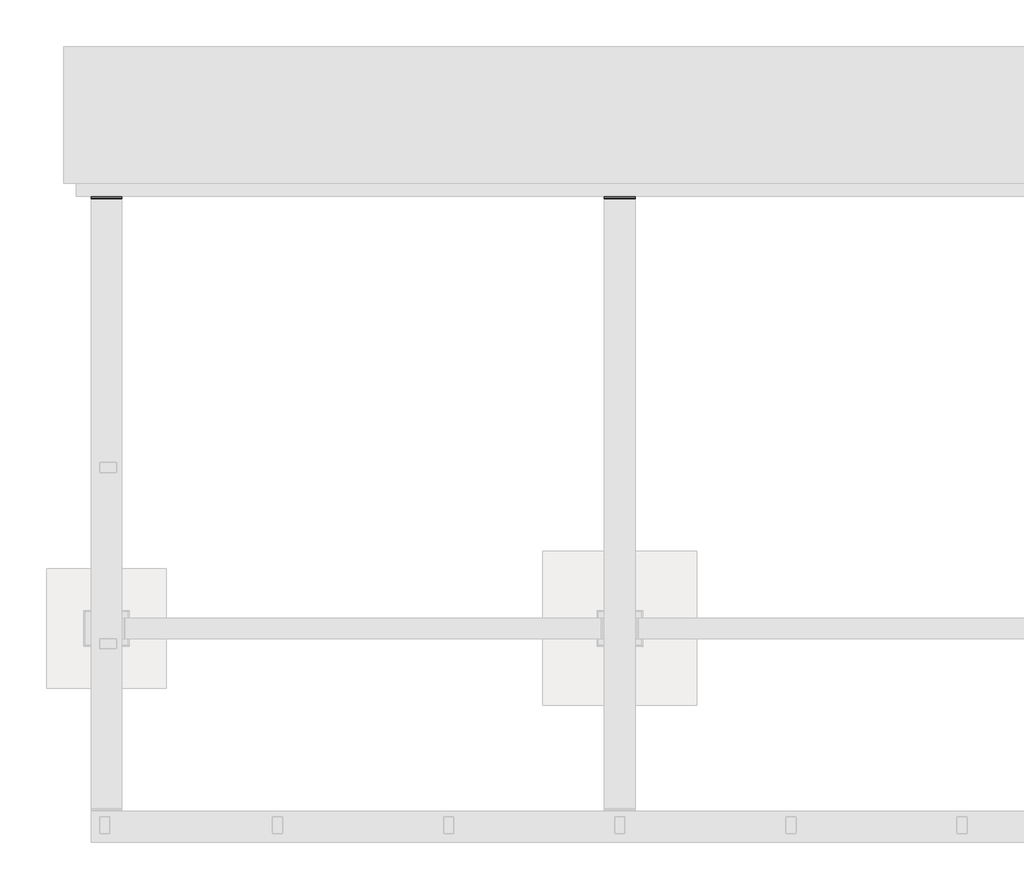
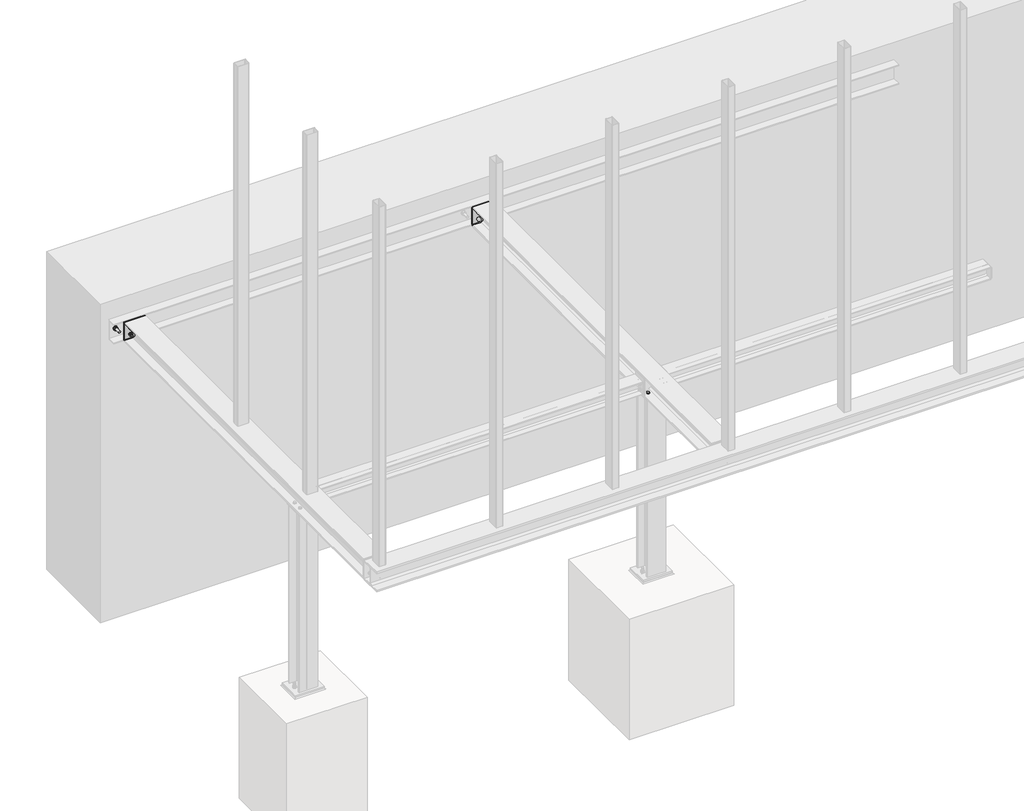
# One storey, part 6 of 31: 9 proxies.
"""IFC4 building model written with IfcOpenShell, lengths in millimetres."""

import ifcopenshell
import ifcopenshell.guid

model = None  # the IFC model being written
_history = None  # IfcOwnerHistory: only IFC2X3 demands one
_inside = {}  # id of a spatial element -> (the spatial element, [elements in it])
_under = {}  # id of a project, library or spatial element -> (it, [spatial elements below it])
_declared = {}  # id of a project -> (the project, [libraries it declares])
_typed = {}  # id of a type object -> (the type object, [elements of that type])
_made_of = {}  # id of a material, layer set ... -> (it, [elements and type objects made of it])


def new_model(schema):
    """Start an empty IFC model of exactly this schema.

    Asked for "IFC4X3", IfcOpenShell would pick the latest addendum, in which some entities
    have other attributes; the version numbers below select the first issue.
    IFC2X3 requires an IfcOwnerHistory on every rooted entity: one is made here for all.
    """
    global model, _history
    if schema == "IFC4X3":
        model = ifcopenshell.file(schema_version=(4, 3, 0, 0))
    else:
        model = ifcopenshell.file(schema=schema)
    _inside.clear()
    _under.clear()
    _declared.clear()
    _typed.clear()
    _made_of.clear()
    _history = None
    if model.schema == "IFC2X3":
        org = make("IfcOrganization", Name="unknown")
        user = make(
            "IfcPersonAndOrganization",
            ThePerson=make("IfcPerson", FamilyName="unknown"),
            TheOrganization=org,
        )
        app = make(
            "IfcApplication",
            ApplicationDeveloper=org,
            Version="unknown",
            ApplicationFullName="unknown",
            ApplicationIdentifier="unknown",
        )
        _history = make(
            "IfcOwnerHistory",
            OwningUser=user,
            OwningApplication=app,
            ChangeAction="ADDED",
            CreationDate=0,
        )
    return model


def make(cls, **values):
    """One entity of the class cls with the attributes given. An attribute that is None is left unset."""
    return model.create_entity(
        cls, **{name: value for name, value in values.items() if value is not None}
    )


def rooted(cls, **values):
    """An entity with a GlobalId (a new one), such as an element, a storey or a relation."""
    return make(cls, GlobalId=ifcopenshell.guid.new(), OwnerHistory=_history, **values)


def si_unit(unit_type, name, prefix=None):
    """IfcSIUnit, for example si_unit("LENGTHUNIT", "METRE", prefix="MILLI")."""
    return make("IfcSIUnit", UnitType=unit_type, Prefix=prefix, Name=name)


def assignment(units):
    """IfcUnitAssignment: the units of a project."""
    return None if units is None else make("IfcUnitAssignment", Units=units)


def point(xyz):
    """IfcCartesianPoint."""
    return None if xyz is None else make("IfcCartesianPoint", Coordinates=xyz)


def direction(xyz):
    """IfcDirection."""
    return None if xyz is None else make("IfcDirection", DirectionRatios=xyz)


def frame(location, z_axis=None, x_axis=None):
    """IfcAxis2Placement3D, a coordinate frame: its origin and axes. An axis left out is left unset."""
    return make(
        "IfcAxis2Placement3D",
        Location=point(location),
        Axis=direction(z_axis),
        RefDirection=direction(x_axis),
    )


def frame_2d(location, x_axis=None):
    """IfcAxis2Placement2D, a coordinate frame in the plane: its origin and x axis."""
    return make(
        "IfcAxis2Placement2D", Location=point(location), RefDirection=direction(x_axis)
    )


def origin():
    """The frame at (0, 0, 0) with its axes left unset."""
    return frame((0.0, 0.0, 0.0))


def place(relative_to, where):
    """IfcLocalPlacement: puts the frame where relative to a parent placement (None: the world)."""
    return make(
        "IfcLocalPlacement", PlacementRelTo=relative_to, RelativePlacement=where
    )


def context(
    kind, dimensions, precision=None, world=None, true_north=None, identifier=None
):
    """IfcGeometricRepresentationContext, for example the 3D "Model" context."""
    return make(
        "IfcGeometricRepresentationContext",
        ContextIdentifier=identifier,
        ContextType=kind,
        CoordinateSpaceDimension=dimensions,
        Precision=precision,
        WorldCoordinateSystem=world,
        TrueNorth=true_north,
    )


def project(units=None, contexts=None):
    """IfcProject with its units and contexts."""
    return rooted(
        "IfcProject",
        Name="project",
        RepresentationContexts=contexts,
        UnitsInContext=assignment(units),
    )


def spatial(cls, under=None, at=None, **own):
    """A site, building, storey or space (cls), placed at a placement, below another one or the project."""
    s = rooted(cls, ObjectPlacement=at, **own)
    if under is not None:
        _under.setdefault(under.id(), (under, []))[1].append(s)
    return s


def polyline(points):
    """IfcPolyline through the points."""
    return make("IfcPolyline", Points=[point(p) for p in points])


def circle_curve(where, radius):
    """IfcCircle in the frame where."""
    return make("IfcCircle", Position=where, Radius=radius)


def trimmed(basis, trim1, trim2, sense, master):
    """IfcTrimmedCurve: the piece of a basis curve between two trims."""
    return make(
        "IfcTrimmedCurve",
        BasisCurve=basis,
        Trim1=trim1,
        Trim2=trim2,
        SenseAgreement=sense,
        MasterRepresentation=master,
    )


def segment(curve, same_sense, transition):
    """IfcCompositeCurveSegment."""
    return make(
        "IfcCompositeCurveSegment",
        Transition=transition,
        SameSense=same_sense,
        ParentCurve=curve,
    )


def composite_curve(segments, self_intersect=None):
    """IfcCompositeCurve: segments joined end to end."""
    return make("IfcCompositeCurve", Segments=segments, SelfIntersect=self_intersect)


def outline(outer, holes=None, kind="AREA"):
    """IfcArbitraryClosedProfileDef: a profile drawn as a closed curve; with holes, ...WithVoids."""
    if holes is None:
        return make("IfcArbitraryClosedProfileDef", ProfileType=kind, OuterCurve=outer)
    return make(
        "IfcArbitraryProfileDefWithVoids",
        ProfileType=kind,
        OuterCurve=outer,
        InnerCurves=holes,
    )


def extrude(swept, where, along, depth):
    """IfcExtrudedAreaSolid: the profile swept, set in the frame where, extruded along a direction by depth."""
    return make(
        "IfcExtrudedAreaSolid",
        SweptArea=swept,
        Position=where,
        ExtrudedDirection=direction(along),
        Depth=depth,
    )


def shape(context_of_items, identifier, shape_type, items):
    """IfcShapeRepresentation: the items that make up one representation, for example the "Body"."""
    return make(
        "IfcShapeRepresentation",
        ContextOfItems=context_of_items,
        RepresentationIdentifier=identifier,
        RepresentationType=shape_type,
        Items=items,
    )


def made_of(thing, what):
    """Note that an element or type object is made of a material, layer set ...; save() writes the relation."""
    if what is not None:
        _made_of.setdefault(what.id(), (what, []))[1].append(thing)
    return thing


def element(
    cls,
    number,
    at=None,
    inside=None,
    cuts=None,
    type_object=None,
    material=None,
    context=None,
    identifier="Body",
    shape_type=None,
    held_by="IfcProductDefinitionShape",
    body=None,
    shapes=None,
    **own,
):
    """One element of the class cls, such as IfcWall. Its Tag is "e" and its number.

    at: its placement. inside: the storey or other place that contains it. cuts: it is an
    opening in that element (IfcRelVoidsElement). A single representation is given by context,
    identifier, shape_type and body (its items); several are given by shapes. held_by: the class
    of the entity that holds the representations. save() writes the other relations.
    """
    e = rooted(cls, Tag="e%d" % number, ObjectPlacement=at, **own)
    if body is not None:
        shapes = [shape(context, identifier, shape_type, body)]
    if shapes is not None:
        e.Representation = make(held_by, Representations=shapes)
    if inside is not None:
        _inside.setdefault(inside.id(), (inside, []))[1].append(e)
    if cuts is not None:
        rooted(
            "IfcRelVoidsElement", RelatingBuildingElement=cuts, RelatedOpeningElement=e
        )
    if type_object is not None:
        _typed.setdefault(type_object.id(), (type_object, []))[1].append(e)
    return made_of(e, material)


def aggregate(whole, parts):
    """IfcRelAggregates: a whole, such as a stair, and the parts it consists of."""
    return rooted("IfcRelAggregates", RelatingObject=whole, RelatedObjects=parts)


def save(model, path):
    """Write the relations noted so far, then the file.

    IfcRelAggregates (storeys below a building ...), IfcRelContainedInSpatialStructure (elements
    in a storey), IfcRelDefinesByType, IfcRelAssociatesMaterial and IfcRelDeclares: one each for
    every whole, place, type object, material and project.
    """
    for whole, parts in _under.values():
        aggregate(whole, parts)
    for where, things in _inside.values():
        rooted(
            "IfcRelContainedInSpatialStructure",
            RelatedElements=things,
            RelatingStructure=where,
        )
    for kind, things in _typed.values():
        rooted("IfcRelDefinesByType", RelatedObjects=things, RelatingType=kind)
    for what, things in _made_of.values():
        rooted("IfcRelAssociatesMaterial", RelatedObjects=things, RelatingMaterial=what)
    for by, libraries in _declared.values():
        rooted("IfcRelDeclares", RelatingContext=by, RelatedDefinitions=libraries)
    model.write(path)


model = new_model("IFC4")

# Units and contexts
model_context = context("Model", 3, world=origin())
ifc_project = project(units=[si_unit("LENGTHUNIT", "METRE", prefix="MILLI")], contexts=[model_context])

# Site, building, storey
site = spatial("IfcSite", under=ifc_project)
building = spatial("IfcBuilding", under=site)
storey = spatial("IfcBuildingStorey", under=building, Name="Základy", Elevation=-1200.0)

# Proxies
placement = place(None, origin())
element("IfcBuildingElementProxy", 1, Name="PLECH", ObjectType="PLECH", at=placement, inside=storey, context=model_context, shape_type="SweptSolid", body=[
    extrude(outline(polyline([(2960.0, 3775.0), (3140.0, 3775.0), (3140.0, 3767.0), (2960.0, 3767.0), (2960.0, 3775.0)])), frame((0.0, 0.0, -316.0), z_axis=(0.0, 0.0, 1.0), x_axis=(1.0, 0.0, 0.0)), (0.0, 0.0, 1.0), 132.0),
])
element("IfcBuildingElementProxy", 2, Name="PLECH", ObjectType="PLECH", at=placement, inside=storey, context=model_context, shape_type="SweptSolid", body=[
    extrude(outline(polyline([(-40.0, 3775.0), (140.0, 3775.0), (140.0, 3767.0), (-40.0, 3767.0), (-40.0, 3775.0)])), frame((0.0, 0.0, -316.0), z_axis=(0.0, 0.0, 1.0), x_axis=(1.0, 0.0, 0.0)), (0.0, 0.0, 1.0), 132.0),
])
element("IfcBuildingElementProxy", 3, Name="PLECH", ObjectType="PLECH", at=placement, inside=storey, context=model_context, shape_type="SweptSolid", body=[
    extrude(outline(composite_curve([segment(polyline([(3785.0, -170.5), (3834.5, -170.5)]), True, "CONTINUOUS"), segment(trimmed(circle_curve(frame_2d((3854.5, -170.5)), 20.0), [point((3834.5, -170.5))], [point((3854.5, -190.5))], True, "CARTESIAN"), True, "CONTINUOUS"), segment(polyline([(3854.5, -190.5), (3854.5, -309.5)]), True, "CONTINUOUS"), segment(trimmed(circle_curve(frame_2d((3854.5, -329.5)), 20.0), [point((3854.5, -309.5))], [point((3834.5, -329.5))], True, "CARTESIAN"), True, "CONTINUOUS"), segment(polyline([(3834.5, -329.5), (3785.0, -329.5), (3785.0, -170.5)]), True, "CONTINUOUS")], self_intersect=False)), frame((3046.0, 0.0, 0.0), z_axis=(1.0, 0.0, 0.0), x_axis=(0.0, 1.0, 0.0)), (0.0, 0.0, 1.0), 8.0),
])
element("IfcBuildingElementProxy", 4, Name="PLECH", ObjectType="PLECH", at=placement, inside=storey, context=model_context, shape_type="SweptSolid", body=[
    extrude(outline(polyline([(2960.0, 3785.0), (3140.0, 3785.0), (3140.0, 3775.0), (2960.0, 3775.0), (2960.0, 3785.0)])), frame((0.0, 0.0, -332.0), z_axis=(0.0, 0.0, 1.0), x_axis=(1.0, 0.0, 0.0)), (0.0, 0.0, 1.0), 164.0),
])
element("IfcBuildingElementProxy", 5, Name="PLECH", ObjectType="PLECH", at=placement, inside=storey, context=model_context, shape_type="SweptSolid", body=[
    extrude(outline(composite_curve([segment(polyline([(3785.0, -170.5), (3834.5, -170.5)]), True, "CONTINUOUS"), segment(trimmed(circle_curve(frame_2d((3854.5, -170.5)), 20.0), [point((3834.5, -170.5))], [point((3854.5, -190.5))], True, "CARTESIAN"), True, "CONTINUOUS"), segment(polyline([(3854.5, -190.5), (3854.5, -309.5)]), True, "CONTINUOUS"), segment(trimmed(circle_curve(frame_2d((3854.5, -329.5)), 20.0), [point((3854.5, -309.5))], [point((3834.5, -329.5))], True, "CARTESIAN"), True, "CONTINUOUS"), segment(polyline([(3834.5, -329.5), (3785.0, -329.5), (3785.0, -170.5)]), True, "CONTINUOUS")], self_intersect=False)), frame((46.0, 0.0, 0.0), z_axis=(1.0, 0.0, 0.0), x_axis=(0.0, 1.0, 0.0)), (0.0, 0.0, 1.0), 8.0),
])
element("IfcBuildingElementProxy", 6, Name="PLECH", ObjectType="PLECH", at=placement, inside=storey, context=model_context, shape_type="SweptSolid", body=[
    extrude(outline(polyline([(-40.0, 3785.0), (140.0, 3785.0), (140.0, 3775.0), (-40.0, 3775.0), (-40.0, 3785.0)])), frame((0.0, 0.0, -332.0), z_axis=(0.0, 0.0, 1.0), x_axis=(1.0, 0.0, 0.0)), (0.0, 0.0, 1.0), 164.0),
])
element("IfcBuildingElementProxy", 7, Name="Bolt assembly", ObjectType="Bolt assembly", at=placement, inside=storey, context=model_context, shape_type="SweptSolid", body=[
    extrude(outline(composite_curve([segment(trimmed(circle_curve(frame_2d((3000.0, 1220.0)), 6.5), [point((3006.5, 1220.0))], [point((2993.5, 1220.0))], False, "CARTESIAN"), True, "CONTINUOUS"), segment(trimmed(circle_curve(frame_2d((3000.0, 1220.0)), 6.5), [point((2993.5, 1220.0))], [point((3006.5, 1220.0))], False, "CARTESIAN"), True, "CONTINUOUS")], self_intersect=False)), frame((0.0, 0.0, -350.0), z_axis=(0.0, 0.0, 1.0), x_axis=(1.0, 0.0, 0.0)), (0.0, 0.0, 1.0), 10.1),
    extrude(outline(polyline([(3010.3923048, 1220.0), (3005.1961524, 1211.0), (2994.8038476, 1211.0), (2989.6076952, 1220.0), (2994.8038476, 1229.0), (3005.1961524, 1229.0), (3010.3923048, 1220.0)])), frame((0.0, 0.0, -323.5), z_axis=(0.0, 0.0, 1.0), x_axis=(1.0, 0.0, 0.0)), (0.0, 0.0, 1.0), 7.5),
    extrude(outline(composite_curve([segment(trimmed(circle_curve(frame_2d((3000.0, 1220.0)), 6.0), [point((3006.0, 1220.0))], [point((2994.0, 1220.0))], False, "CARTESIAN"), True, "CONTINUOUS"), segment(trimmed(circle_curve(frame_2d((3000.0, 1220.0)), 6.0), [point((2994.0, 1220.0))], [point((3006.0, 1220.0))], False, "CARTESIAN"), True, "CONTINUOUS")], self_intersect=False)), frame((0.0, 0.0, -368.5), z_axis=(0.0, 0.0, 1.0), x_axis=(1.0, 0.0, 0.0)), (0.0, 0.0, 1.0), 45.0),
    extrude(outline(composite_curve([segment(trimmed(circle_curve(frame_2d((3000.0, 1220.0)), 12.0), [point((3012.0, 1220.0))], [point((2988.0, 1220.0))], False, "CARTESIAN"), True, "CONTINUOUS"), segment(trimmed(circle_curve(frame_2d((3000.0, 1220.0)), 12.0), [point((2988.0, 1220.0))], [point((3012.0, 1220.0))], False, "CARTESIAN"), True, "CONTINUOUS")], self_intersect=False)), frame((0.0, 0.0, -326.0), z_axis=(0.0, 0.0, 1.0), x_axis=(1.0, 0.0, 0.0)), (0.0, 0.0, 1.0), 2.5),
    extrude(outline(composite_curve([segment(trimmed(circle_curve(frame_2d((3000.0, 1220.0)), 12.0), [point((3012.0, 1220.0))], [point((2988.0, 1220.0))], False, "CARTESIAN"), True, "CONTINUOUS"), segment(trimmed(circle_curve(frame_2d((3000.0, 1220.0)), 12.0), [point((2988.0, 1220.0))], [point((3012.0, 1220.0))], False, "CARTESIAN"), True, "CONTINUOUS")], self_intersect=False)), frame((0.0, 0.0, -352.5), z_axis=(0.0, 0.0, 1.0), x_axis=(1.0, 0.0, 0.0)), (0.0, 0.0, 1.0), 2.5),
    extrude(outline(polyline([(3010.9696551, 1220.0), (3005.4848276, 1210.5), (2994.5151724, 1210.5), (2989.0303449, 1220.0), (2994.5151724, 1229.5), (3005.4848276, 1229.5), (3010.9696551, 1220.0)])), frame((0.0, 0.0, -362.5), z_axis=(0.0, 0.0, 1.0), x_axis=(1.0, 0.0, 0.0)), (0.0, 0.0, 1.0), 10.0),
    extrude(outline(composite_curve([segment(trimmed(circle_curve(frame_2d((3000.0, 1220.0)), 6.5), [point((3006.5, 1220.0))], [point((2993.5, 1220.0))], False, "CARTESIAN"), True, "CONTINUOUS"), segment(trimmed(circle_curve(frame_2d((3000.0, 1220.0)), 6.5), [point((2993.5, 1220.0))], [point((3006.5, 1220.0))], False, "CARTESIAN"), True, "CONTINUOUS")], self_intersect=False)), frame((0.0, 0.0, -340.1), z_axis=(0.0, 0.0, 1.0), x_axis=(1.0, 0.0, 0.0)), (0.0, 0.0, 1.0), 14.0),
    extrude(outline(composite_curve([segment(trimmed(circle_curve(frame_2d((3100.0, 1220.0)), 6.5), [point((3106.5, 1220.0))], [point((3093.5, 1220.0))], False, "CARTESIAN"), True, "CONTINUOUS"), segment(trimmed(circle_curve(frame_2d((3100.0, 1220.0)), 6.5), [point((3093.5, 1220.0))], [point((3106.5, 1220.0))], False, "CARTESIAN"), True, "CONTINUOUS")], self_intersect=False)), frame((0.0, 0.0, -350.0), z_axis=(0.0, 0.0, 1.0), x_axis=(1.0, 0.0, 0.0)), (0.0, 0.0, 1.0), 10.1),
    extrude(outline(polyline([(3110.3923048, 1220.0), (3105.1961524, 1211.0), (3094.8038476, 1211.0), (3089.6076952, 1220.0), (3094.8038476, 1229.0), (3105.1961524, 1229.0), (3110.3923048, 1220.0)])), frame((0.0, 0.0, -323.5), z_axis=(0.0, 0.0, 1.0), x_axis=(1.0, 0.0, 0.0)), (0.0, 0.0, 1.0), 7.5),
    extrude(outline(composite_curve([segment(trimmed(circle_curve(frame_2d((3100.0, 1220.0)), 6.0), [point((3106.0, 1220.0))], [point((3094.0, 1220.0))], False, "CARTESIAN"), True, "CONTINUOUS"), segment(trimmed(circle_curve(frame_2d((3100.0, 1220.0)), 6.0), [point((3094.0, 1220.0))], [point((3106.0, 1220.0))], False, "CARTESIAN"), True, "CONTINUOUS")], self_intersect=False)), frame((0.0, 0.0, -368.5), z_axis=(0.0, 0.0, 1.0), x_axis=(1.0, 0.0, 0.0)), (0.0, 0.0, 1.0), 45.0),
    extrude(outline(composite_curve([segment(trimmed(circle_curve(frame_2d((3100.0, 1220.0)), 12.0), [point((3112.0, 1220.0))], [point((3088.0, 1220.0))], False, "CARTESIAN"), True, "CONTINUOUS"), segment(trimmed(circle_curve(frame_2d((3100.0, 1220.0)), 12.0), [point((3088.0, 1220.0))], [point((3112.0, 1220.0))], False, "CARTESIAN"), True, "CONTINUOUS")], self_intersect=False)), frame((0.0, 0.0, -326.0), z_axis=(0.0, 0.0, 1.0), x_axis=(1.0, 0.0, 0.0)), (0.0, 0.0, 1.0), 2.5),
    extrude(outline(composite_curve([segment(trimmed(circle_curve(frame_2d((3100.0, 1220.0)), 12.0), [point((3112.0, 1220.0))], [point((3088.0, 1220.0))], False, "CARTESIAN"), True, "CONTINUOUS"), segment(trimmed(circle_curve(frame_2d((3100.0, 1220.0)), 12.0), [point((3088.0, 1220.0))], [point((3112.0, 1220.0))], False, "CARTESIAN"), True, "CONTINUOUS")], self_intersect=False)), frame((0.0, 0.0, -352.5), z_axis=(0.0, 0.0, 1.0), x_axis=(1.0, 0.0, 0.0)), (0.0, 0.0, 1.0), 2.5),
    extrude(outline(polyline([(3110.9696551, 1220.0), (3105.4848276, 1210.5), (3094.5151724, 1210.5), (3089.0303449, 1220.0), (3094.5151724, 1229.5), (3105.4848276, 1229.5), (3110.9696551, 1220.0)])), frame((0.0, 0.0, -362.5), z_axis=(0.0, 0.0, 1.0), x_axis=(1.0, 0.0, 0.0)), (0.0, 0.0, 1.0), 10.0),
    extrude(outline(composite_curve([segment(trimmed(circle_curve(frame_2d((3100.0, 1220.0)), 6.5), [point((3106.5, 1220.0))], [point((3093.5, 1220.0))], False, "CARTESIAN"), True, "CONTINUOUS"), segment(trimmed(circle_curve(frame_2d((3100.0, 1220.0)), 6.5), [point((3093.5, 1220.0))], [point((3106.5, 1220.0))], False, "CARTESIAN"), True, "CONTINUOUS")], self_intersect=False)), frame((0.0, 0.0, -340.1), z_axis=(0.0, 0.0, 1.0), x_axis=(1.0, 0.0, 0.0)), (0.0, 0.0, 1.0), 14.0),
    extrude(outline(composite_curve([segment(trimmed(circle_curve(frame_2d((3000.0, 1300.0)), 6.5), [point((3006.5, 1300.0))], [point((2993.5, 1300.0))], False, "CARTESIAN"), True, "CONTINUOUS"), segment(trimmed(circle_curve(frame_2d((3000.0, 1300.0)), 6.5), [point((2993.5, 1300.0))], [point((3006.5, 1300.0))], False, "CARTESIAN"), True, "CONTINUOUS")], self_intersect=False)), frame((0.0, 0.0, -350.0), z_axis=(0.0, 0.0, 1.0), x_axis=(1.0, 0.0, 0.0)), (0.0, 0.0, 1.0), 10.1),
    extrude(outline(polyline([(3010.3923048, 1300.0), (3005.1961524, 1291.0), (2994.8038476, 1291.0), (2989.6076952, 1300.0), (2994.8038476, 1309.0), (3005.1961524, 1309.0), (3010.3923048, 1300.0)])), frame((0.0, 0.0, -323.5), z_axis=(0.0, 0.0, 1.0), x_axis=(1.0, 0.0, 0.0)), (0.0, 0.0, 1.0), 7.5),
    extrude(outline(composite_curve([segment(trimmed(circle_curve(frame_2d((3000.0, 1300.0)), 6.0), [point((3006.0, 1300.0))], [point((2994.0, 1300.0))], False, "CARTESIAN"), True, "CONTINUOUS"), segment(trimmed(circle_curve(frame_2d((3000.0, 1300.0)), 6.0), [point((2994.0, 1300.0))], [point((3006.0, 1300.0))], False, "CARTESIAN"), True, "CONTINUOUS")], self_intersect=False)), frame((0.0, 0.0, -368.5), z_axis=(0.0, 0.0, 1.0), x_axis=(1.0, 0.0, 0.0)), (0.0, 0.0, 1.0), 45.0),
    extrude(outline(composite_curve([segment(trimmed(circle_curve(frame_2d((3000.0, 1300.0)), 12.0), [point((3012.0, 1300.0))], [point((2988.0, 1300.0))], False, "CARTESIAN"), True, "CONTINUOUS"), segment(trimmed(circle_curve(frame_2d((3000.0, 1300.0)), 12.0), [point((2988.0, 1300.0))], [point((3012.0, 1300.0))], False, "CARTESIAN"), True, "CONTINUOUS")], self_intersect=False)), frame((0.0, 0.0, -326.0), z_axis=(0.0, 0.0, 1.0), x_axis=(1.0, 0.0, 0.0)), (0.0, 0.0, 1.0), 2.5),
    extrude(outline(composite_curve([segment(trimmed(circle_curve(frame_2d((3000.0, 1300.0)), 12.0), [point((3012.0, 1300.0))], [point((2988.0, 1300.0))], False, "CARTESIAN"), True, "CONTINUOUS"), segment(trimmed(circle_curve(frame_2d((3000.0, 1300.0)), 12.0), [point((2988.0, 1300.0))], [point((3012.0, 1300.0))], False, "CARTESIAN"), True, "CONTINUOUS")], self_intersect=False)), frame((0.0, 0.0, -352.5), z_axis=(0.0, 0.0, 1.0), x_axis=(1.0, 0.0, 0.0)), (0.0, 0.0, 1.0), 2.5),
    extrude(outline(polyline([(3010.9696551, 1300.0), (3005.4848276, 1290.5), (2994.5151724, 1290.5), (2989.0303449, 1300.0), (2994.5151724, 1309.5), (3005.4848276, 1309.5), (3010.9696551, 1300.0)])), frame((0.0, 0.0, -362.5), z_axis=(0.0, 0.0, 1.0), x_axis=(1.0, 0.0, 0.0)), (0.0, 0.0, 1.0), 10.0),
    extrude(outline(composite_curve([segment(trimmed(circle_curve(frame_2d((3000.0, 1300.0)), 6.5), [point((3006.5, 1300.0))], [point((2993.5, 1300.0))], False, "CARTESIAN"), True, "CONTINUOUS"), segment(trimmed(circle_curve(frame_2d((3000.0, 1300.0)), 6.5), [point((2993.5, 1300.0))], [point((3006.5, 1300.0))], False, "CARTESIAN"), True, "CONTINUOUS")], self_intersect=False)), frame((0.0, 0.0, -340.1), z_axis=(0.0, 0.0, 1.0), x_axis=(1.0, 0.0, 0.0)), (0.0, 0.0, 1.0), 14.0),
    extrude(outline(composite_curve([segment(trimmed(circle_curve(frame_2d((3100.0, 1300.0)), 6.5), [point((3106.5, 1300.0))], [point((3093.5, 1300.0))], False, "CARTESIAN"), True, "CONTINUOUS"), segment(trimmed(circle_curve(frame_2d((3100.0, 1300.0)), 6.5), [point((3093.5, 1300.0))], [point((3106.5, 1300.0))], False, "CARTESIAN"), True, "CONTINUOUS")], self_intersect=False)), frame((0.0, 0.0, -350.0), z_axis=(0.0, 0.0, 1.0), x_axis=(1.0, 0.0, 0.0)), (0.0, 0.0, 1.0), 10.1),
    extrude(outline(polyline([(3110.3923048, 1300.0), (3105.1961524, 1291.0), (3094.8038476, 1291.0), (3089.6076952, 1300.0), (3094.8038476, 1309.0), (3105.1961524, 1309.0), (3110.3923048, 1300.0)])), frame((0.0, 0.0, -323.5), z_axis=(0.0, 0.0, 1.0), x_axis=(1.0, 0.0, 0.0)), (0.0, 0.0, 1.0), 7.5),
    extrude(outline(composite_curve([segment(trimmed(circle_curve(frame_2d((3100.0, 1300.0)), 6.0), [point((3106.0, 1300.0))], [point((3094.0, 1300.0))], False, "CARTESIAN"), True, "CONTINUOUS"), segment(trimmed(circle_curve(frame_2d((3100.0, 1300.0)), 6.0), [point((3094.0, 1300.0))], [point((3106.0, 1300.0))], False, "CARTESIAN"), True, "CONTINUOUS")], self_intersect=False)), frame((0.0, 0.0, -368.5), z_axis=(0.0, 0.0, 1.0), x_axis=(1.0, 0.0, 0.0)), (0.0, 0.0, 1.0), 45.0),
    extrude(outline(composite_curve([segment(trimmed(circle_curve(frame_2d((3100.0, 1300.0)), 12.0), [point((3112.0, 1300.0))], [point((3088.0, 1300.0))], False, "CARTESIAN"), True, "CONTINUOUS"), segment(trimmed(circle_curve(frame_2d((3100.0, 1300.0)), 12.0), [point((3088.0, 1300.0))], [point((3112.0, 1300.0))], False, "CARTESIAN"), True, "CONTINUOUS")], self_intersect=False)), frame((0.0, 0.0, -326.0), z_axis=(0.0, 0.0, 1.0), x_axis=(1.0, 0.0, 0.0)), (0.0, 0.0, 1.0), 2.5),
    extrude(outline(composite_curve([segment(trimmed(circle_curve(frame_2d((3100.0, 1300.0)), 12.0), [point((3112.0, 1300.0))], [point((3088.0, 1300.0))], False, "CARTESIAN"), True, "CONTINUOUS"), segment(trimmed(circle_curve(frame_2d((3100.0, 1300.0)), 12.0), [point((3088.0, 1300.0))], [point((3112.0, 1300.0))], False, "CARTESIAN"), True, "CONTINUOUS")], self_intersect=False)), frame((0.0, 0.0, -352.5), z_axis=(0.0, 0.0, 1.0), x_axis=(1.0, 0.0, 0.0)), (0.0, 0.0, 1.0), 2.5),
    extrude(outline(polyline([(3110.9696551, 1300.0), (3105.4848276, 1290.5), (3094.5151724, 1290.5), (3089.0303449, 1300.0), (3094.5151724, 1309.5), (3105.4848276, 1309.5), (3110.9696551, 1300.0)])), frame((0.0, 0.0, -362.5), z_axis=(0.0, 0.0, 1.0), x_axis=(1.0, 0.0, 0.0)), (0.0, 0.0, 1.0), 10.0),
    extrude(outline(composite_curve([segment(trimmed(circle_curve(frame_2d((3100.0, 1300.0)), 6.5), [point((3106.5, 1300.0))], [point((3093.5, 1300.0))], False, "CARTESIAN"), True, "CONTINUOUS"), segment(trimmed(circle_curve(frame_2d((3100.0, 1300.0)), 6.5), [point((3093.5, 1300.0))], [point((3106.5, 1300.0))], False, "CARTESIAN"), True, "CONTINUOUS")], self_intersect=False)), frame((0.0, 0.0, -340.1), z_axis=(0.0, 0.0, 1.0), x_axis=(1.0, 0.0, 0.0)), (0.0, 0.0, 1.0), 14.0),
])
element("IfcBuildingElementProxy", 8, Name="Bolt assembly", ObjectType="Bolt assembly", at=placement, inside=storey, context=model_context, shape_type="SweptSolid", body=[
    extrude(outline(composite_curve([segment(trimmed(circle_curve(frame_2d((-220.0, 5.0)), 9.0), [point((-220.0, 14.0))], [point((-220.0, -4.0))], False, "CARTESIAN"), True, "CONTINUOUS"), segment(trimmed(circle_curve(frame_2d((-220.0, 5.0)), 9.0), [point((-220.0, -4.0))], [point((-220.0, 14.0))], False, "CARTESIAN"), True, "CONTINUOUS")], self_intersect=False)), frame((0.0, 3774.9, 0.0), z_axis=(0.0, 1.0, 0.0), x_axis=(0.0, 0.0, 1.0)), (0.0, 0.0, 1.0), 10.0),
    extrude(outline(polyline([(-220.0, 18.8564065), (-208.0, 11.9282032), (-208.0, -1.9282032), (-220.0, -8.8564065), (-232.0, -1.9282032), (-232.0, 11.9282032), (-220.0, 18.8564065)])), frame((0.0, 3788.0, 0.0), z_axis=(0.0, 1.0, 0.0), x_axis=(0.0, 0.0, 1.0)), (0.0, 0.0, 1.0), 10.0),
    extrude(outline(composite_curve([segment(trimmed(circle_curve(frame_2d((-220.0, 5.0)), 8.0), [point((-220.0, 13.0))], [point((-220.0, -3.0))], False, "CARTESIAN"), True, "CONTINUOUS"), segment(trimmed(circle_curve(frame_2d((-220.0, 5.0)), 8.0), [point((-220.0, -3.0))], [point((-220.0, 13.0))], False, "CARTESIAN"), True, "CONTINUOUS")], self_intersect=False)), frame((0.0, 3738.0, 0.0), z_axis=(0.0, 1.0, 0.0), x_axis=(0.0, 0.0, 1.0)), (0.0, 0.0, 1.0), 50.0),
    extrude(outline(composite_curve([segment(trimmed(circle_curve(frame_2d((-220.0, 5.0)), 15.0), [point((-220.0, 20.0))], [point((-220.0, -10.0))], False, "CARTESIAN"), True, "CONTINUOUS"), segment(trimmed(circle_curve(frame_2d((-220.0, 5.0)), 15.0), [point((-220.0, -10.0))], [point((-220.0, 20.0))], False, "CARTESIAN"), True, "CONTINUOUS")], self_intersect=False)), frame((0.0, 3785.0, 0.0), z_axis=(0.0, 1.0, 0.0), x_axis=(0.0, 0.0, 1.0)), (0.0, 0.0, 1.0), 3.0),
    extrude(outline(composite_curve([segment(trimmed(circle_curve(frame_2d((-220.0, 5.0)), 15.0), [point((-220.0, 20.0))], [point((-220.0, -10.0))], False, "CARTESIAN"), True, "CONTINUOUS"), segment(trimmed(circle_curve(frame_2d((-220.0, 5.0)), 15.0), [point((-220.0, -10.0))], [point((-220.0, 20.0))], False, "CARTESIAN"), True, "CONTINUOUS")], self_intersect=False)), frame((0.0, 3764.0, 0.0), z_axis=(0.0, 1.0, 0.0), x_axis=(0.0, 0.0, 1.0)), (0.0, 0.0, 1.0), 3.0),
    extrude(outline(polyline([(-220.0, 20.4441197), (-206.625, 12.7220599), (-206.625, -2.7220599), (-220.0, -10.4441197), (-233.375, -2.7220599), (-233.375, 12.7220599), (-220.0, 20.4441197)])), frame((0.0, 3751.0, 0.0), z_axis=(0.0, 1.0, 0.0), x_axis=(0.0, 0.0, 1.0)), (0.0, 0.0, 1.0), 13.0),
    extrude(outline(composite_curve([segment(trimmed(circle_curve(frame_2d((-220.0, 5.0)), 9.0), [point((-220.0, 14.0))], [point((-220.0, -4.0))], False, "CARTESIAN"), True, "CONTINUOUS"), segment(trimmed(circle_curve(frame_2d((-220.0, 5.0)), 9.0), [point((-220.0, -4.0))], [point((-220.0, 14.0))], False, "CARTESIAN"), True, "CONTINUOUS")], self_intersect=False)), frame((0.0, 3767.0, 0.0), z_axis=(0.0, 1.0, 0.0), x_axis=(0.0, 0.0, 1.0)), (0.0, 0.0, 1.0), 8.1),
    extrude(outline(composite_curve([segment(trimmed(circle_curve(frame_2d((-220.0, 95.0)), 9.0), [point((-220.0, 104.0))], [point((-220.0, 86.0))], False, "CARTESIAN"), True, "CONTINUOUS"), segment(trimmed(circle_curve(frame_2d((-220.0, 95.0)), 9.0), [point((-220.0, 86.0))], [point((-220.0, 104.0))], False, "CARTESIAN"), True, "CONTINUOUS")], self_intersect=False)), frame((0.0, 3774.9, 0.0), z_axis=(0.0, 1.0, 0.0), x_axis=(0.0, 0.0, 1.0)), (0.0, 0.0, 1.0), 10.0),
    extrude(outline(polyline([(-220.0, 108.8564065), (-208.0, 101.9282032), (-208.0, 88.0717968), (-220.0, 81.1435935), (-232.0, 88.0717968), (-232.0, 101.9282032), (-220.0, 108.8564065)])), frame((0.0, 3788.0, 0.0), z_axis=(0.0, 1.0, 0.0), x_axis=(0.0, 0.0, 1.0)), (0.0, 0.0, 1.0), 10.0),
    extrude(outline(composite_curve([segment(trimmed(circle_curve(frame_2d((-220.0, 95.0)), 8.0), [point((-220.0, 103.0))], [point((-220.0, 87.0))], False, "CARTESIAN"), True, "CONTINUOUS"), segment(trimmed(circle_curve(frame_2d((-220.0, 95.0)), 8.0), [point((-220.0, 87.0))], [point((-220.0, 103.0))], False, "CARTESIAN"), True, "CONTINUOUS")], self_intersect=False)), frame((0.0, 3738.0, 0.0), z_axis=(0.0, 1.0, 0.0), x_axis=(0.0, 0.0, 1.0)), (0.0, 0.0, 1.0), 50.0),
    extrude(outline(composite_curve([segment(trimmed(circle_curve(frame_2d((-220.0, 95.0)), 15.0), [point((-220.0, 110.0))], [point((-220.0, 80.0))], False, "CARTESIAN"), True, "CONTINUOUS"), segment(trimmed(circle_curve(frame_2d((-220.0, 95.0)), 15.0), [point((-220.0, 80.0))], [point((-220.0, 110.0))], False, "CARTESIAN"), True, "CONTINUOUS")], self_intersect=False)), frame((0.0, 3785.0, 0.0), z_axis=(0.0, 1.0, 0.0), x_axis=(0.0, 0.0, 1.0)), (0.0, 0.0, 1.0), 3.0),
    extrude(outline(composite_curve([segment(trimmed(circle_curve(frame_2d((-220.0, 95.0)), 15.0), [point((-220.0, 110.0))], [point((-220.0, 80.0))], False, "CARTESIAN"), True, "CONTINUOUS"), segment(trimmed(circle_curve(frame_2d((-220.0, 95.0)), 15.0), [point((-220.0, 80.0))], [point((-220.0, 110.0))], False, "CARTESIAN"), True, "CONTINUOUS")], self_intersect=False)), frame((0.0, 3764.0, 0.0), z_axis=(0.0, 1.0, 0.0), x_axis=(0.0, 0.0, 1.0)), (0.0, 0.0, 1.0), 3.0),
    extrude(outline(polyline([(-220.0, 110.4441197), (-206.625, 102.7220599), (-206.625, 87.2779401), (-220.0, 79.5558803), (-233.375, 87.2779401), (-233.375, 102.7220599), (-220.0, 110.4441197)])), frame((0.0, 3751.0, 0.0), z_axis=(0.0, 1.0, 0.0), x_axis=(0.0, 0.0, 1.0)), (0.0, 0.0, 1.0), 13.0),
    extrude(outline(composite_curve([segment(trimmed(circle_curve(frame_2d((-220.0, 95.0)), 9.0), [point((-220.0, 104.0))], [point((-220.0, 86.0))], False, "CARTESIAN"), True, "CONTINUOUS"), segment(trimmed(circle_curve(frame_2d((-220.0, 95.0)), 9.0), [point((-220.0, 86.0))], [point((-220.0, 104.0))], False, "CARTESIAN"), True, "CONTINUOUS")], self_intersect=False)), frame((0.0, 3767.0, 0.0), z_axis=(0.0, 1.0, 0.0), x_axis=(0.0, 0.0, 1.0)), (0.0, 0.0, 1.0), 8.1),
    extrude(outline(composite_curve([segment(trimmed(circle_curve(frame_2d((-280.0, 5.0)), 9.0), [point((-280.0, 14.0))], [point((-280.0, -4.0))], False, "CARTESIAN"), True, "CONTINUOUS"), segment(trimmed(circle_curve(frame_2d((-280.0, 5.0)), 9.0), [point((-280.0, -4.0))], [point((-280.0, 14.0))], False, "CARTESIAN"), True, "CONTINUOUS")], self_intersect=False)), frame((0.0, 3774.9, 0.0), z_axis=(0.0, 1.0, 0.0), x_axis=(0.0, 0.0, 1.0)), (0.0, 0.0, 1.0), 10.0),
    extrude(outline(polyline([(-280.0, 18.8564065), (-268.0, 11.9282032), (-268.0, -1.9282032), (-280.0, -8.8564065), (-292.0, -1.9282032), (-292.0, 11.9282032), (-280.0, 18.8564065)])), frame((0.0, 3788.0, 0.0), z_axis=(0.0, 1.0, 0.0), x_axis=(0.0, 0.0, 1.0)), (0.0, 0.0, 1.0), 10.0),
    extrude(outline(composite_curve([segment(trimmed(circle_curve(frame_2d((-280.0, 5.0)), 8.0), [point((-280.0, 13.0))], [point((-280.0, -3.0))], False, "CARTESIAN"), True, "CONTINUOUS"), segment(trimmed(circle_curve(frame_2d((-280.0, 5.0)), 8.0), [point((-280.0, -3.0))], [point((-280.0, 13.0))], False, "CARTESIAN"), True, "CONTINUOUS")], self_intersect=False)), frame((0.0, 3738.0, 0.0), z_axis=(0.0, 1.0, 0.0), x_axis=(0.0, 0.0, 1.0)), (0.0, 0.0, 1.0), 50.0),
    extrude(outline(composite_curve([segment(trimmed(circle_curve(frame_2d((-280.0, 5.0)), 15.0), [point((-280.0, 20.0))], [point((-280.0, -10.0))], False, "CARTESIAN"), True, "CONTINUOUS"), segment(trimmed(circle_curve(frame_2d((-280.0, 5.0)), 15.0), [point((-280.0, -10.0))], [point((-280.0, 20.0))], False, "CARTESIAN"), True, "CONTINUOUS")], self_intersect=False)), frame((0.0, 3785.0, 0.0), z_axis=(0.0, 1.0, 0.0), x_axis=(0.0, 0.0, 1.0)), (0.0, 0.0, 1.0), 3.0),
    extrude(outline(composite_curve([segment(trimmed(circle_curve(frame_2d((-280.0, 5.0)), 15.0), [point((-280.0, 20.0))], [point((-280.0, -10.0))], False, "CARTESIAN"), True, "CONTINUOUS"), segment(trimmed(circle_curve(frame_2d((-280.0, 5.0)), 15.0), [point((-280.0, -10.0))], [point((-280.0, 20.0))], False, "CARTESIAN"), True, "CONTINUOUS")], self_intersect=False)), frame((0.0, 3764.0, 0.0), z_axis=(0.0, 1.0, 0.0), x_axis=(0.0, 0.0, 1.0)), (0.0, 0.0, 1.0), 3.0),
    extrude(outline(polyline([(-280.0, 20.4441197), (-266.625, 12.7220599), (-266.625, -2.7220599), (-280.0, -10.4441197), (-293.375, -2.7220599), (-293.375, 12.7220599), (-280.0, 20.4441197)])), frame((0.0, 3751.0, 0.0), z_axis=(0.0, 1.0, 0.0), x_axis=(0.0, 0.0, 1.0)), (0.0, 0.0, 1.0), 13.0),
    extrude(outline(composite_curve([segment(trimmed(circle_curve(frame_2d((-280.0, 5.0)), 9.0), [point((-280.0, 14.0))], [point((-280.0, -4.0))], False, "CARTESIAN"), True, "CONTINUOUS"), segment(trimmed(circle_curve(frame_2d((-280.0, 5.0)), 9.0), [point((-280.0, -4.0))], [point((-280.0, 14.0))], False, "CARTESIAN"), True, "CONTINUOUS")], self_intersect=False)), frame((0.0, 3767.0, 0.0), z_axis=(0.0, 1.0, 0.0), x_axis=(0.0, 0.0, 1.0)), (0.0, 0.0, 1.0), 8.1),
    extrude(outline(composite_curve([segment(trimmed(circle_curve(frame_2d((-280.0, 95.0)), 9.0), [point((-280.0, 104.0))], [point((-280.0, 86.0))], False, "CARTESIAN"), True, "CONTINUOUS"), segment(trimmed(circle_curve(frame_2d((-280.0, 95.0)), 9.0), [point((-280.0, 86.0))], [point((-280.0, 104.0))], False, "CARTESIAN"), True, "CONTINUOUS")], self_intersect=False)), frame((0.0, 3774.9, 0.0), z_axis=(0.0, 1.0, 0.0), x_axis=(0.0, 0.0, 1.0)), (0.0, 0.0, 1.0), 10.0),
    extrude(outline(polyline([(-280.0, 108.8564065), (-268.0, 101.9282032), (-268.0, 88.0717968), (-280.0, 81.1435935), (-292.0, 88.0717968), (-292.0, 101.9282032), (-280.0, 108.8564065)])), frame((0.0, 3788.0, 0.0), z_axis=(0.0, 1.0, 0.0), x_axis=(0.0, 0.0, 1.0)), (0.0, 0.0, 1.0), 10.0),
    extrude(outline(composite_curve([segment(trimmed(circle_curve(frame_2d((-280.0, 95.0)), 8.0), [point((-280.0, 103.0))], [point((-280.0, 87.0))], False, "CARTESIAN"), True, "CONTINUOUS"), segment(trimmed(circle_curve(frame_2d((-280.0, 95.0)), 8.0), [point((-280.0, 87.0))], [point((-280.0, 103.0))], False, "CARTESIAN"), True, "CONTINUOUS")], self_intersect=False)), frame((0.0, 3738.0, 0.0), z_axis=(0.0, 1.0, 0.0), x_axis=(0.0, 0.0, 1.0)), (0.0, 0.0, 1.0), 50.0),
    extrude(outline(composite_curve([segment(trimmed(circle_curve(frame_2d((-280.0, 95.0)), 15.0), [point((-280.0, 110.0))], [point((-280.0, 80.0))], False, "CARTESIAN"), True, "CONTINUOUS"), segment(trimmed(circle_curve(frame_2d((-280.0, 95.0)), 15.0), [point((-280.0, 80.0))], [point((-280.0, 110.0))], False, "CARTESIAN"), True, "CONTINUOUS")], self_intersect=False)), frame((0.0, 3785.0, 0.0), z_axis=(0.0, 1.0, 0.0), x_axis=(0.0, 0.0, 1.0)), (0.0, 0.0, 1.0), 3.0),
    extrude(outline(composite_curve([segment(trimmed(circle_curve(frame_2d((-280.0, 95.0)), 15.0), [point((-280.0, 110.0))], [point((-280.0, 80.0))], False, "CARTESIAN"), True, "CONTINUOUS"), segment(trimmed(circle_curve(frame_2d((-280.0, 95.0)), 15.0), [point((-280.0, 80.0))], [point((-280.0, 110.0))], False, "CARTESIAN"), True, "CONTINUOUS")], self_intersect=False)), frame((0.0, 3764.0, 0.0), z_axis=(0.0, 1.0, 0.0), x_axis=(0.0, 0.0, 1.0)), (0.0, 0.0, 1.0), 3.0),
    extrude(outline(polyline([(-280.0, 110.4441197), (-266.625, 102.7220599), (-266.625, 87.2779401), (-280.0, 79.5558803), (-293.375, 87.2779401), (-293.375, 102.7220599), (-280.0, 110.4441197)])), frame((0.0, 3751.0, 0.0), z_axis=(0.0, 1.0, 0.0), x_axis=(0.0, 0.0, 1.0)), (0.0, 0.0, 1.0), 13.0),
    extrude(outline(composite_curve([segment(trimmed(circle_curve(frame_2d((-280.0, 95.0)), 9.0), [point((-280.0, 104.0))], [point((-280.0, 86.0))], False, "CARTESIAN"), True, "CONTINUOUS"), segment(trimmed(circle_curve(frame_2d((-280.0, 95.0)), 9.0), [point((-280.0, 86.0))], [point((-280.0, 104.0))], False, "CARTESIAN"), True, "CONTINUOUS")], self_intersect=False)), frame((0.0, 3767.0, 0.0), z_axis=(0.0, 1.0, 0.0), x_axis=(0.0, 0.0, 1.0)), (0.0, 0.0, 1.0), 8.1),
])
element("IfcBuildingElementProxy", 9, Name="Bolt assembly", ObjectType="Bolt assembly", at=placement, inside=storey, context=model_context, shape_type="SweptSolid", body=[
    extrude(outline(polyline([(-250.0, -65.1850454), (-241.5, -70.0925227), (-241.5, -79.9074773), (-250.0, -84.8149546), (-258.5, -79.9074773), (-258.5, -70.0925227), (-250.0, -65.1850454)])), frame((0.0, 3860.0, 0.0), z_axis=(0.0, 1.0, 0.0), x_axis=(0.0, 0.0, 1.0)), (0.0, 0.0, 1.0), 168.0),
    extrude(outline(composite_curve([segment(trimmed(circle_curve(frame_2d((-250.0, -75.0)), 10.0), [point((-250.0, -65.0))], [point((-250.0, -85.0))], False, "CARTESIAN"), True, "CONTINUOUS"), segment(trimmed(circle_curve(frame_2d((-250.0, -75.0)), 10.0), [point((-250.0, -85.0))], [point((-250.0, -65.0))], False, "CARTESIAN"), True, "CONTINUOUS")], self_intersect=False)), frame((0.0, 3788.0, 0.0), z_axis=(0.0, 1.0, 0.0), x_axis=(0.0, 0.0, 1.0)), (0.0, 0.0, 1.0), 72.0),
    extrude(outline(composite_curve([segment(trimmed(circle_curve(frame_2d((-250.0, -75.0)), 18.5), [point((-250.0, -56.5))], [point((-250.0, -93.5))], False, "CARTESIAN"), True, "CONTINUOUS"), segment(trimmed(circle_curve(frame_2d((-250.0, -75.0)), 18.5), [point((-250.0, -93.5))], [point((-250.0, -56.5))], False, "CARTESIAN"), True, "CONTINUOUS")], self_intersect=False)), frame((0.0, 3851.5, 0.0), z_axis=(0.0, 1.0, 0.0), x_axis=(0.0, 0.0, 1.0)), (0.0, 0.0, 1.0), 3.0),
    extrude(outline(polyline([(-250.0, -57.6794919), (-235.0, -66.339746), (-235.0, -83.660254), (-250.0, -92.3205081), (-265.0, -83.660254), (-265.0, -66.339746), (-250.0, -57.6794919)])), frame((0.0, 3835.5, 0.0), z_axis=(0.0, 1.0, 0.0), x_axis=(0.0, 0.0, 1.0)), (0.0, 0.0, 1.0), 16.0),
    extrude(outline(composite_curve([segment(trimmed(circle_curve(frame_2d((-250.0, -75.0)), 11.0), [point((-250.0, -64.0))], [point((-250.0, -86.0))], False, "CARTESIAN"), True, "CONTINUOUS"), segment(trimmed(circle_curve(frame_2d((-250.0, -75.0)), 11.0), [point((-250.0, -86.0))], [point((-250.0, -64.0))], False, "CARTESIAN"), True, "CONTINUOUS")], self_intersect=False)), frame((0.0, 3854.4, 0.0), z_axis=(0.0, 1.0, 0.0), x_axis=(0.0, 0.0, 1.0)), (0.0, 0.0, 1.0), 5.6),
    extrude(outline(polyline([(-250.0, 184.8149546), (-241.5, 179.9074773), (-241.5, 170.0925227), (-250.0, 165.1850454), (-258.5, 170.0925227), (-258.5, 179.9074773), (-250.0, 184.8149546)])), frame((0.0, 3860.0, 0.0), z_axis=(0.0, 1.0, 0.0), x_axis=(0.0, 0.0, 1.0)), (0.0, 0.0, 1.0), 168.0),
    extrude(outline(composite_curve([segment(trimmed(circle_curve(frame_2d((-250.0, 175.0)), 10.0), [point((-250.0, 185.0))], [point((-250.0, 165.0))], False, "CARTESIAN"), True, "CONTINUOUS"), segment(trimmed(circle_curve(frame_2d((-250.0, 175.0)), 10.0), [point((-250.0, 165.0))], [point((-250.0, 185.0))], False, "CARTESIAN"), True, "CONTINUOUS")], self_intersect=False)), frame((0.0, 3788.0, 0.0), z_axis=(0.0, 1.0, 0.0), x_axis=(0.0, 0.0, 1.0)), (0.0, 0.0, 1.0), 72.0),
    extrude(outline(composite_curve([segment(trimmed(circle_curve(frame_2d((-250.0, 175.0)), 18.5), [point((-250.0, 193.5))], [point((-250.0, 156.5))], False, "CARTESIAN"), True, "CONTINUOUS"), segment(trimmed(circle_curve(frame_2d((-250.0, 175.0)), 18.5), [point((-250.0, 156.5))], [point((-250.0, 193.5))], False, "CARTESIAN"), True, "CONTINUOUS")], self_intersect=False)), frame((0.0, 3851.5, 0.0), z_axis=(0.0, 1.0, 0.0), x_axis=(0.0, 0.0, 1.0)), (0.0, 0.0, 1.0), 3.0),
    extrude(outline(polyline([(-250.0, 192.3205081), (-235.0, 183.660254), (-235.0, 166.339746), (-250.0, 157.6794919), (-265.0, 166.339746), (-265.0, 183.660254), (-250.0, 192.3205081)])), frame((0.0, 3835.5, 0.0), z_axis=(0.0, 1.0, 0.0), x_axis=(0.0, 0.0, 1.0)), (0.0, 0.0, 1.0), 16.0),
    extrude(outline(composite_curve([segment(trimmed(circle_curve(frame_2d((-250.0, 175.0)), 11.0), [point((-250.0, 186.0))], [point((-250.0, 164.0))], False, "CARTESIAN"), True, "CONTINUOUS"), segment(trimmed(circle_curve(frame_2d((-250.0, 175.0)), 11.0), [point((-250.0, 164.0))], [point((-250.0, 186.0))], False, "CARTESIAN"), True, "CONTINUOUS")], self_intersect=False)), frame((0.0, 3854.4, 0.0), z_axis=(0.0, 1.0, 0.0), x_axis=(0.0, 0.0, 1.0)), (0.0, 0.0, 1.0), 5.6),
])

save(model, "model.ifc")
